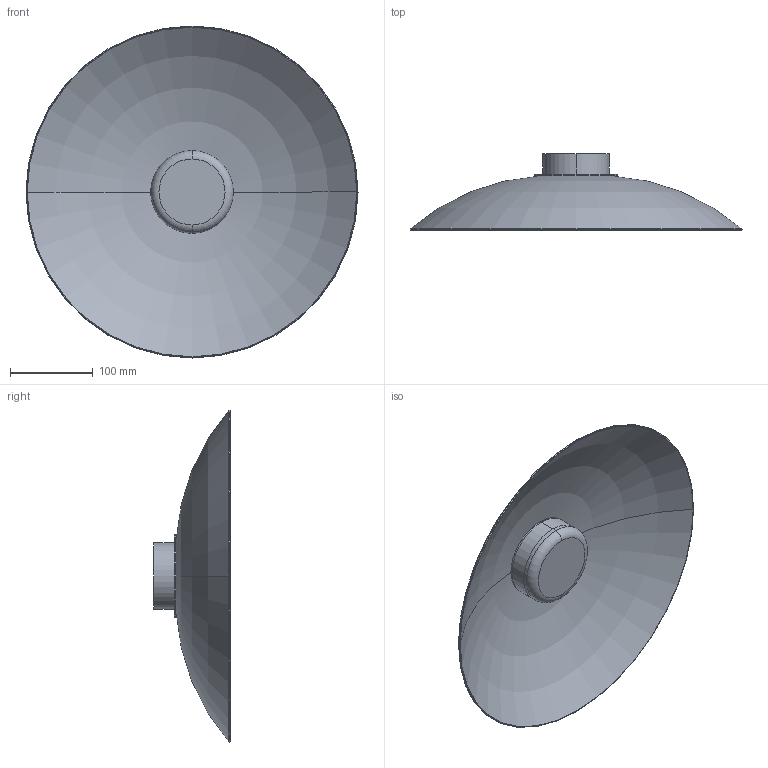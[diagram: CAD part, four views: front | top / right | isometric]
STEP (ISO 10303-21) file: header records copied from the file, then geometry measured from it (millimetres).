
FILE_DESCRIPTION (( 'STEP AP214' ), '1' );
FILE_NAME ('BETTY_A1338.STEP', '2025-01-17T15:21:54', ( '' ), ( '' ), 'SwSTEP 2.0', 'SolidWorks 2018', '' );
FILE_SCHEMA (( 'AUTOMOTIVE_DESIGN' ));
Length unit declared in the file: millimetre
Products named in the file (1): BETTY_A1338
Bounding box: 402.2 x 92.79 x 402.2 mm (x, y, z)
Volume: 632897.1 mm3; surface area: 380881 mm2
Topology: 6 solids, 6 shells, 35 faces, 62 edges, 36 vertices
Faces by surface type: cylinder 12, plane 11, torus 10, cone 2
Entity records: 911 total; most frequent: DIRECTION 174, CARTESIAN_POINT 130, ORIENTED_EDGE 116, AXIS2_PLACEMENT_3D 80, EDGE_CURVE 58, CIRCLE 44, EDGE_LOOP 36, VERTEX_POINT 36
